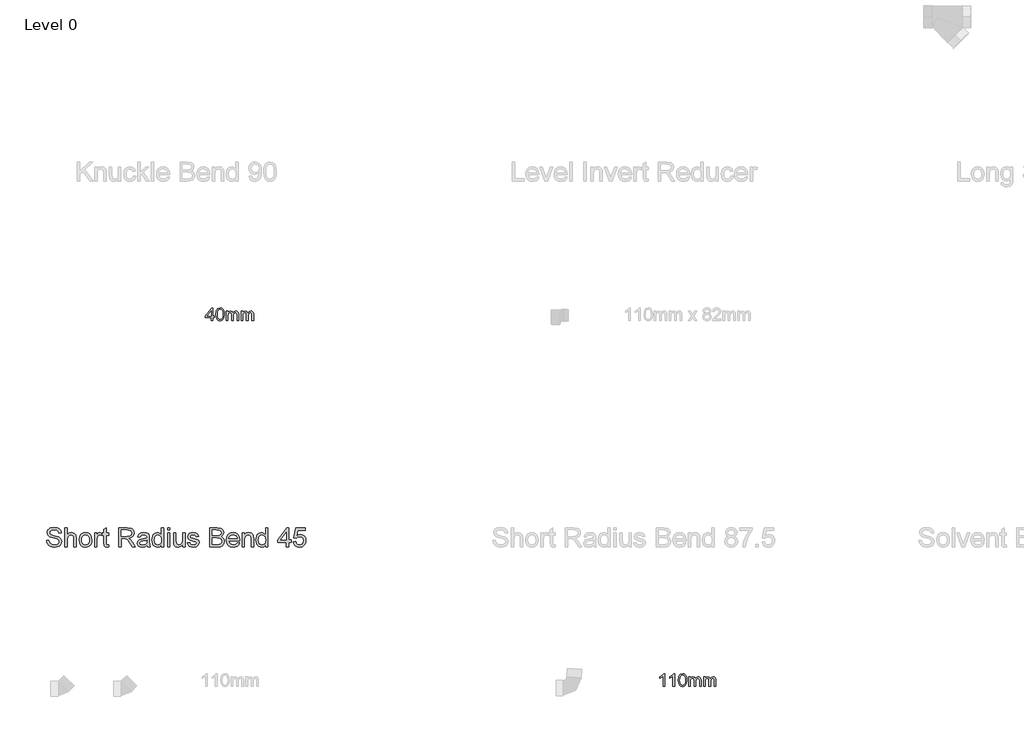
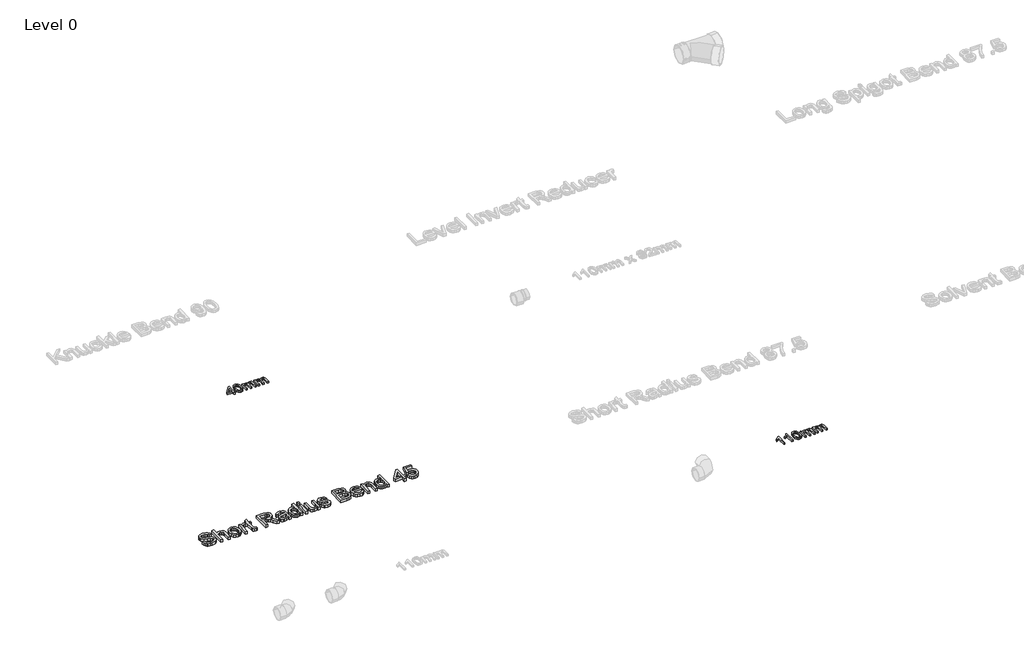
# One storey, part 2 of 28: 3 proxies.
"""IFC4 building model written with IfcOpenShell, lengths in millimetres."""

from ifc_helpers import new_model, si_unit, origin, origin_with_axes, place, context, project, spatial, polyline, outline, extrude, element, save

model = new_model("IFC4")

# Units and contexts
model_context = context("Model", 3, world=origin())
ifc_project = project(units=[si_unit("LENGTHUNIT", "METRE", prefix="MILLI")], contexts=[model_context])

# Site, building, storey
site = spatial("IfcSite", under=ifc_project)
building = spatial("IfcBuilding", under=site)
storey = spatial("IfcBuildingStorey", under=building, Name="Level 0", Elevation=0.0)

# Proxies
placement = place(None, origin())
element("IfcBuildingElementProxy", 1, Name="100mm Arial", ObjectType="100mm Arial", at=placement, inside=storey, context=model_context, shape_type="SweptSolid", body=[
    extrude(outline(polyline([(-20760.1908572, -162.2832696), (-20760.1908572, -139.2063465), (-20804.8062418, -139.2063465), (-20804.8062418, -126.8986542), (-20757.1139341, -65.3601927), (-20747.8831649, -65.3601927), (-20747.8831649, -126.8986542), (-20735.5754726, -126.8986542), (-20735.5754726, -139.2063465), (-20747.8831649, -139.2063465), (-20747.8831649, -162.2832696), (-20760.1908572, -162.2832696)]), holes=[polyline([(-20760.1908572, -126.8986542), (-20760.1908572, -88.8698081), (-20789.6620111, -126.8986542), (-20760.1908572, -126.8986542)])]), origin_with_axes(), (0.0, 0.0, 1.0), 15.0),
    extrude(outline(polyline([(-20724.8062418, -113.8457696), (-20721.1884534, -85.5164427), (-20710.4432611, -69.1823081), (-20692.4985495, -63.8217312), (-20678.1235495, -66.9948081), (-20668.1956649, -76.1414427), (-20662.4264341, -90.7087504), (-20660.1908572, -113.8457696), (-20663.772588, -142.0549042), (-20674.4817226, -158.4250965), (-20692.4985495, -163.8217312), (-20705.2870111, -161.4779812), (-20714.9985495, -154.4467312), (-20722.3543188, -137.7940869), (-20724.8062418, -113.8457696)]), holes=[polyline([(-20712.4985495, -113.8217312), (-20711.0562418, -133.1817071), (-20706.7293188, -144.386635), (-20700.2870111, -149.7321879), (-20692.4985495, -151.5140389), (-20684.710088, -149.7261783), (-20678.2677803, -144.3625965), (-20673.9408572, -133.151659), (-20672.4985495, -113.8217312), (-20673.8927803, -94.8974523), (-20678.0754726, -83.605385), (-20684.5057611, -77.9984139), (-20692.6427803, -76.1294235), (-20700.3471072, -77.7760581), (-20706.5370111, -82.7159619), (-20711.0081649, -94.7111542), (-20712.4985495, -113.8217312)])]), origin_with_axes(), (0.0, 0.0, 1.0), 15.0),
    extrude(outline(polyline([(-20646.3447034, -162.2832696), (-20646.3447034, -89.9755773), (-20634.0370111, -89.9755773), (-20634.0370111, -101.8746158), (-20625.5754726, -92.1270196), (-20613.5322034, -88.4371158), (-20601.2004726, -92.199135), (-20594.4216264, -102.7400004), (-20584.8182611, -92.0128369), (-20572.6908572, -88.4371158), (-20563.4390543, -89.9244956), (-20556.5971072, -94.386635), (-20552.3693428, -101.9437264), (-20550.960088, -112.7159619), (-20550.960088, -162.2832696), (-20563.2677803, -162.2832696), (-20563.2677803, -118.0044235), (-20564.4096072, -107.7279812), (-20568.5442226, -102.667885), (-20575.5754726, -100.7448081), (-20587.678838, -105.6726927), (-20592.4985495, -121.4659619), (-20592.4985495, -162.2832696), (-20604.8062418, -162.2832696), (-20604.8062418, -116.6342312), (-20607.6547995, -104.7111542), (-20616.9937418, -100.7448081), (-20626.1043188, -103.3890389), (-20632.1620111, -111.1294235), (-20634.0370111, -125.8169235), (-20634.0370111, -162.2832696), (-20646.3447034, -162.2832696)])), origin_with_axes(), (0.0, 0.0, 1.0), 15.0),
    extrude(outline(polyline([(-20532.4985495, -162.2832696), (-20532.4985495, -89.9755773), (-20520.1908572, -89.9755773), (-20520.1908572, -101.8746158), (-20511.7293188, -92.1270196), (-20499.6860495, -88.4371158), (-20487.3543188, -92.199135), (-20480.5754726, -102.7400004), (-20470.9721072, -92.0128369), (-20458.8447034, -88.4371158), (-20449.5929005, -89.9244956), (-20442.7509534, -94.386635), (-20438.5231889, -101.9437264), (-20437.1139341, -112.7159619), (-20437.1139341, -162.2832696), (-20449.4216264, -162.2832696), (-20449.4216264, -118.0044235), (-20450.5634534, -107.7279812), (-20454.6980688, -102.667885), (-20461.7293188, -100.7448081), (-20473.8326841, -105.6726927), (-20478.6523957, -121.4659619), (-20478.6523957, -162.2832696), (-20490.960088, -162.2832696), (-20490.960088, -116.6342312), (-20493.8086457, -104.7111542), (-20503.147588, -100.7448081), (-20512.2581649, -103.3890389), (-20518.3158572, -111.1294235), (-20520.1908572, -125.8169235), (-20520.1908572, -162.2832696), (-20532.4985495, -162.2832696)])), origin_with_axes(), (0.0, 0.0, 1.0), 15.0),
])
element("IfcBuildingElementProxy", 2, Name="100mm Arial", ObjectType="100mm Arial", at=placement, inside=storey, context=model_context, shape_type="SweptSolid", body=[
    extrude(outline(polyline([(-17291.7293188, -2962.2832696), (-17304.0370111, -2962.2832696), (-17304.0370111, -2885.5525004), (-17315.6956649, -2893.8577889), (-17328.6523957, -2900.0717312), (-17328.6523957, -2888.4371158), (-17310.6115303, -2876.9226927), (-17299.6620111, -2863.8217312), (-17291.7293188, -2863.8217312), (-17291.7293188, -2962.2832696)])), origin_with_axes(), (0.0, 0.0, 1.0), 15.0),
    extrude(outline(polyline([(-17216.3447034, -2962.2832696), (-17228.6523957, -2962.2832696), (-17228.6523957, -2885.5525004), (-17240.3110495, -2893.8577889), (-17253.2677803, -2900.0717312), (-17253.2677803, -2888.4371158), (-17235.2269149, -2876.9226927), (-17224.2773957, -2863.8217312), (-17216.3447034, -2863.8217312), (-17216.3447034, -2962.2832696)])), origin_with_axes(), (0.0, 0.0, 1.0), 15.0),
    extrude(outline(polyline([(-17187.1139341, -2913.8457696), (-17183.4961457, -2885.5164427), (-17172.7509534, -2869.1823081), (-17154.8062418, -2863.8217312), (-17140.4312418, -2866.9948081), (-17130.5033572, -2876.1414427), (-17124.7341264, -2890.7087504), (-17122.4985495, -2913.8457696), (-17126.0802803, -2942.0549042), (-17136.7894149, -2958.4250965), (-17154.8062418, -2963.8217312), (-17167.5947034, -2961.4779812), (-17177.3062418, -2954.4467312), (-17184.6620111, -2937.7940869), (-17187.1139341, -2913.8457696)]), holes=[polyline([(-17174.8062418, -2913.8217312), (-17173.3639341, -2933.1817071), (-17169.0370111, -2944.386635), (-17162.5947034, -2949.7321879), (-17154.8062418, -2951.5140389), (-17147.0177803, -2949.7261783), (-17140.5754726, -2944.3625965), (-17136.2485495, -2933.151659), (-17134.8062418, -2913.8217312), (-17136.2004726, -2894.8974523), (-17140.3831649, -2883.605385), (-17146.8134534, -2877.9984139), (-17154.9504726, -2876.1294235), (-17162.6547995, -2877.7760581), (-17168.8447034, -2882.7159619), (-17173.3158572, -2894.7111542), (-17174.8062418, -2913.8217312)])]), origin_with_axes(), (0.0, 0.0, 1.0), 15.0),
    extrude(outline(polyline([(-17108.6523957, -2962.2832696), (-17108.6523957, -2889.9755773), (-17096.3447034, -2889.9755773), (-17096.3447034, -2901.8746158), (-17087.8831649, -2892.1270196), (-17075.8398957, -2888.4371158), (-17063.5081649, -2892.199135), (-17056.7293188, -2902.7400004), (-17047.1259534, -2892.0128369), (-17034.9985495, -2888.4371158), (-17025.7467466, -2889.9244956), (-17018.9047995, -2894.386635), (-17014.6770351, -2901.9437264), (-17013.2677803, -2912.7159619), (-17013.2677803, -2962.2832696), (-17025.5754726, -2962.2832696), (-17025.5754726, -2918.0044235), (-17026.7172995, -2907.7279812), (-17030.8519149, -2902.667885), (-17037.8831649, -2900.7448081), (-17049.9865303, -2905.6726927), (-17054.8062418, -2921.4659619), (-17054.8062418, -2962.2832696), (-17067.1139341, -2962.2832696), (-17067.1139341, -2916.6342312), (-17069.9624918, -2904.7111542), (-17079.3014341, -2900.7448081), (-17088.4120111, -2903.3890389), (-17094.4697034, -2911.1294235), (-17096.3447034, -2925.8169235), (-17096.3447034, -2962.2832696), (-17108.6523957, -2962.2832696)])), origin_with_axes(), (0.0, 0.0, 1.0), 15.0),
    extrude(outline(polyline([(-16994.8062418, -2962.2832696), (-16994.8062418, -2889.9755773), (-16982.4985495, -2889.9755773), (-16982.4985495, -2901.8746158), (-16974.0370111, -2892.1270196), (-16961.9937418, -2888.4371158), (-16949.6620111, -2892.199135), (-16942.8831649, -2902.7400004), (-16933.2797995, -2892.0128369), (-16921.1523957, -2888.4371158), (-16911.9005928, -2889.9244956), (-16905.0586457, -2894.386635), (-16900.8308813, -2901.9437264), (-16899.4216264, -2912.7159619), (-16899.4216264, -2962.2832696), (-16911.7293188, -2962.2832696), (-16911.7293188, -2918.0044235), (-16912.8711457, -2907.7279812), (-16917.0057611, -2902.667885), (-16924.0370111, -2900.7448081), (-16936.1403764, -2905.6726927), (-16940.960088, -2921.4659619), (-16940.960088, -2962.2832696), (-16953.2677803, -2962.2832696), (-16953.2677803, -2916.6342312), (-16956.116338, -2904.7111542), (-16965.4552803, -2900.7448081), (-16974.5658572, -2903.3890389), (-16980.6235495, -2911.1294235), (-16982.4985495, -2925.8169235), (-16982.4985495, -2962.2832696), (-16994.8062418, -2962.2832696)])), origin_with_axes(), (0.0, 0.0, 1.0), 15.0),
])
element("IfcBuildingElementProxy", 3, Name="150mm Arial", ObjectType="150mm Arial", at=placement, inside=storey, context=model_context, shape_type="SweptSolid", body=[
    extrude(outline(polyline([(-22020.2202973, -1844.0162473), (-22001.7587589, -1844.0162473), (-21995.8092397, -1862.4958146), (-21981.2779897, -1874.1785069), (-21959.1385666, -1878.6316319), (-21939.8477012, -1875.2602377), (-21927.3897685, -1865.9934108), (-21923.2972204, -1853.6075935), (-21926.3621243, -1842.0871608), (-21938.9102012, -1833.7037473), (-21965.7912108, -1826.6544685), (-21994.7275089, -1817.5499012), (-22010.4306339, -1803.8119204), (-22015.6049127, -1785.458555), (-22014.0048526, -1774.6457545), (-22009.2046723, -1764.5631223), (-22001.3305738, -1756.0174492), (-21990.5087589, -1749.8155262), (-21963.1409704, -1744.7854781), (-21933.9342397, -1750.0499012), (-21922.7383262, -1756.5493002), (-21914.4630858, -1765.5186512), (-21909.225706, -1776.3990598), (-21907.1433743, -1788.6316319), (-21925.6049127, -1788.6316319), (-21928.9943358, -1777.6160069), (-21936.0616435, -1769.6652858), (-21947.1043118, -1764.8515839), (-21962.4198166, -1763.2470165), (-21978.0958983, -1764.833555), (-21988.850105, -1769.5931704), (-21995.070057, -1776.5973771), (-21997.1433743, -1784.9176896), (-21995.6740233, -1792.0120406), (-21991.2659704, -1797.7181704), (-21961.1217397, -1808.0306704), (-21928.4534704, -1817.2974973), (-21917.9291315, -1823.9952137), (-21910.5868839, -1832.2614396), (-21904.835682, -1853.1388435), (-21906.4898286, -1864.5195526), (-21911.4522685, -1875.22418), (-21919.5201772, -1884.4369204), (-21930.49073, -1891.3419685), (-21958.4174127, -1897.0931704), (-21976.5048526, -1895.5426896), (-21991.3921723, -1890.8912473), (-22003.2506459, -1883.1208146), (-22012.2515473, -1872.2133627), (-22018.0297925, -1858.9261031), (-22020.2202973, -1844.0162473)])), origin_with_axes(), (0.0, 0.0, 1.0), 25.0),
    extrude(outline(polyline([(-21879.4510666, -1894.7854781), (-21879.4510666, -1747.0931704), (-21860.9895281, -1747.0931704), (-21860.9895281, -1801.396055), (-21846.5934945, -1788.3611992), (-21828.8621243, -1784.0162473), (-21808.1289512, -1788.7578339), (-21795.5448166, -1801.864805), (-21791.7587589, -1826.1316319), (-21791.7587589, -1894.7854781), (-21810.2202973, -1894.7854781), (-21810.2202973, -1828.0426896), (-21811.6896483, -1816.4861992), (-21816.0977012, -1808.5715358), (-21823.2010666, -1804.0012233), (-21832.756355, -1802.4777858), (-21847.882557, -1806.5883627), (-21857.9787108, -1817.7301896), (-21860.9895281, -1837.1652858), (-21860.9895281, -1894.7854781), (-21879.4510666, -1894.7854781)])), origin_with_axes(), (0.0, 0.0, 1.0), 25.0),
    extrude(outline(polyline([(-21770.9895281, -1840.5547089), (-21766.9961387, -1814.4038675), (-21755.0159704, -1796.0234589), (-21740.2142877, -1787.0180502), (-21722.491932, -1784.0162473), (-21703.0974007, -1787.6715959), (-21687.6061147, -1798.6376415), (-21677.4513671, -1816.0489997), (-21674.0664512, -1839.0402858), (-21675.5628454, -1857.6911271), (-21680.0520281, -1871.8888435), (-21687.4032901, -1882.5213555), (-21697.4859223, -1890.4765839), (-21709.4615834, -1895.4390238), (-21722.491932, -1897.0931704), (-21742.1208382, -1893.4513435), (-21757.5940954, -1882.5258627), (-21767.6406699, -1864.7494204), (-21770.9895281, -1840.5547089)]), holes=[polyline([(-21752.5279897, -1840.5186512), (-21750.3915714, -1857.2268843), (-21743.9823166, -1869.13043), (-21734.3368839, -1876.2563314), (-21722.491932, -1878.6316319), (-21710.7010666, -1876.2428098), (-21701.0736627, -1869.0763435), (-21694.6644079, -1857.0150454), (-21692.5279897, -1839.9417281), (-21694.6779296, -1823.7202738), (-21701.1277493, -1811.9789877), (-21710.7686747, -1804.8530863), (-21722.491932, -1802.4777858), (-21734.3368839, -1804.8440718), (-21743.9823166, -1811.94293), (-21750.3915714, -1823.8194324), (-21752.5279897, -1840.5186512)])]), origin_with_axes(), (0.0, 0.0, 1.0), 25.0),
    extrude(outline(polyline([(-21653.2972204, -1894.7854781), (-21653.2972204, -1786.3239396), (-21637.1433743, -1786.3239396), (-21637.1433743, -1802.3696127), (-21625.6770281, -1787.5859589), (-21614.1385666, -1784.0162473), (-21595.6049127, -1789.7133627), (-21601.7707781, -1806.2638435), (-21614.7515473, -1802.4777858), (-21625.1902493, -1806.1196127), (-21631.8428935, -1816.2157665), (-21634.835682, -1837.7782665), (-21634.835682, -1894.7854781), (-21653.2972204, -1894.7854781)])), origin_with_axes(), (0.0, 0.0, 1.0), 25.0),
    extrude(outline(polyline([(-21544.835682, -1879.3888435), (-21542.5279897, -1895.3263435), (-21556.3380858, -1897.0931704), (-21571.8068358, -1894.0282665), (-21579.523182, -1885.9874012), (-21581.7587589, -1865.0378819), (-21581.7587589, -1804.7854781), (-21595.6049127, -1804.7854781), (-21595.6049127, -1786.3239396), (-21581.7587589, -1786.3239396), (-21581.7587589, -1759.9657665), (-21563.2972204, -1749.1124012), (-21563.2972204, -1786.3239396), (-21544.835682, -1786.3239396), (-21544.835682, -1804.7854781), (-21563.2972204, -1804.7854781), (-21563.2972204, -1864.4970165), (-21562.3236627, -1874.0162473), (-21559.1686147, -1877.3876415), (-21552.8765473, -1878.6316319), (-21544.835682, -1879.3888435)])), origin_with_axes(), (0.0, 0.0, 1.0), 25.0),
    extrude(outline(polyline([(-21466.3741435, -1894.7854781), (-21466.3741435, -1747.0931704), (-21402.7323166, -1747.0931704), (-21373.1830377, -1751.0775454), (-21364.0874848, -1756.5943723), (-21357.0291916, -1765.1761031), (-21352.499444, -1775.8176295), (-21350.9895281, -1787.5138435), (-21353.4910305, -1802.0631223), (-21360.9955377, -1814.1244204), (-21373.7284103, -1822.9675694), (-21391.9150089, -1827.8624012), (-21381.4222204, -1835.7590358), (-21366.4582781, -1854.7614396), (-21341.8308743, -1894.7854781), (-21363.2852012, -1894.7854781), (-21382.5039512, -1864.1724973), (-21396.3861627, -1843.9080742), (-21406.1397685, -1834.3347569), (-21414.9198166, -1830.8191319), (-21425.6289512, -1830.1700935), (-21447.912605, -1830.1700935), (-21447.912605, -1894.7854781), (-21466.3741435, -1894.7854781)]), holes=[polyline([(-21447.912605, -1811.708555), (-21406.5904897, -1811.708555), (-21385.5147685, -1809.0943723), (-21373.5436147, -1800.7289877), (-21369.4510666, -1788.1989396), (-21371.4026892, -1779.193531), (-21377.257557, -1771.9369204), (-21387.3311747, -1767.1502617), (-21401.9390473, -1765.5547089), (-21447.912605, -1765.5547089), (-21447.912605, -1811.708555)])]), origin_with_axes(), (0.0, 0.0, 1.0), 25.0),
    extrude(outline(polyline([(-21251.7587589, -1880.9393242), (-21269.6614031, -1893.4513435), (-21289.4390473, -1897.0931704), (-21304.8672324, -1894.9026656), (-21316.2479416, -1888.3311512), (-21323.2656699, -1878.3521848), (-21325.6049127, -1865.9393242), (-21322.0712589, -1851.3359589), (-21312.7864031, -1840.7349973), (-21299.8597204, -1834.677305), (-21283.8861627, -1831.9008627), (-21251.866932, -1825.5547089), (-21251.7587589, -1821.4441319), (-21253.0297925, -1813.2049492), (-21256.8428935, -1807.8143242), (-21265.3705377, -1803.8119204), (-21277.2515473, -1802.4777858), (-21295.929432, -1806.0294685), (-21304.835682, -1818.6316319), (-21323.2972204, -1816.3239396), (-21315.3104416, -1798.2950935), (-21299.2287108, -1787.7301896), (-21274.8717397, -1784.0162473), (-21252.4979416, -1787.2974973), (-21239.8597204, -1795.53668), (-21234.1986627, -1808.0667281), (-21233.2972204, -1824.2205742), (-21233.2972204, -1847.1893242), (-21232.3597204, -1879.2626415), (-21228.6818358, -1894.7854781), (-21247.1433743, -1894.7854781), (-21251.7587589, -1880.9393242)]), holes=[polyline([(-21251.7587589, -1844.0162473), (-21281.5424127, -1849.677305), (-21297.4258262, -1852.6700935), (-21304.6193358, -1857.5378819), (-21307.1433743, -1864.6412473), (-21301.6445762, -1874.6292281), (-21285.5087589, -1878.6316319), (-21266.8308743, -1874.2145646), (-21254.787605, -1863.5234589), (-21251.866932, -1849.2446127), (-21251.7587589, -1844.0162473)])]), origin_with_axes(), (0.0, 0.0, 1.0), 25.0),
    extrude(outline(polyline([(-21140.9895281, -1894.7854781), (-21140.9895281, -1877.3696127), (-21153.2040714, -1892.162281), (-21170.0880858, -1897.0931704), (-21182.023182, -1895.3083146), (-21192.9486627, -1889.9537473), (-21202.1974608, -1881.403567), (-21209.1025089, -1870.0318723), (-21213.4023887, -1856.2983988), (-21214.835682, -1840.6628819), (-21209.55323, -1811.2758627), (-21202.9546723, -1799.6202137), (-21193.7239031, -1791.0474973), (-21182.5595401, -1785.7740598), (-21170.1602012, -1784.0162473), (-21153.1409704, -1789.0462954), (-21140.9895281, -1802.1172089), (-21140.9895281, -1747.0931704), (-21122.5279897, -1747.0931704), (-21122.5279897, -1894.7854781), (-21140.9895281, -1894.7854781)]), holes=[polyline([(-21196.3741435, -1840.5907665), (-21194.2918118, -1857.2899853), (-21188.0448166, -1869.1664877), (-21178.9672925, -1876.2653459), (-21168.3933743, -1878.6316319), (-21157.8239632, -1876.3735189), (-21148.976307, -1869.59918), (-21142.9862228, -1858.1824132), (-21140.9895281, -1841.9970165), (-21143.0222805, -1824.301704), (-21149.1205377, -1812.0330742), (-21158.1935546, -1804.8666079), (-21169.1505858, -1802.4777858), (-21179.8326772, -1804.7719564), (-21188.585682, -1811.6544685), (-21194.4270281, -1823.4768843), (-21196.3741435, -1840.5907665)])]), origin_with_axes(), (0.0, 0.0, 1.0), 25.0),
    extrude(outline(polyline([(-21094.835682, -1765.5547089), (-21094.835682, -1747.0931704), (-21076.3741435, -1747.0931704), (-21076.3741435, -1765.5547089), (-21094.835682, -1765.5547089)])), origin_with_axes(), (0.0, 0.0, 1.0), 25.0),
    extrude(outline(polyline([(-21094.835682, -1894.7854781), (-21094.835682, -1786.3239396), (-21076.3741435, -1786.3239396), (-21076.3741435, -1894.7854781), (-21094.835682, -1894.7854781)])), origin_with_axes(), (0.0, 0.0, 1.0), 25.0),
    extrude(outline(polyline([(-20979.4510666, -1894.7854781), (-20979.4510666, -1876.1436512), (-20993.9102012, -1891.8557906), (-21012.7683743, -1897.0931704), (-21030.1301531, -1893.4152858), (-21042.101307, -1884.1845165), (-21047.600105, -1870.5907665), (-21048.6818358, -1853.427305), (-21048.6818358, -1786.3239396), (-21030.2202973, -1786.3239396), (-21030.2202973, -1844.7374012), (-21029.1025089, -1863.5595165), (-21021.8008262, -1874.6111992), (-21008.0448166, -1878.6316319), (-20992.6301531, -1874.521055), (-20982.443855, -1863.3251415), (-20979.4510666, -1842.7542281), (-20979.4510666, -1786.3239396), (-20960.9895281, -1786.3239396), (-20960.9895281, -1894.7854781), (-20979.4510666, -1894.7854781)])), origin_with_axes(), (0.0, 0.0, 1.0), 25.0),
    extrude(outline(polyline([(-20942.5279897, -1862.4777858), (-20924.0664512, -1860.1700935), (-20921.1547925, -1868.0667281), (-20915.5207781, -1873.8720165), (-20895.9414512, -1878.6316319), (-20877.1193358, -1874.2686512), (-20870.9895281, -1864.0282665), (-20877.1553935, -1855.7349973), (-20896.1577973, -1850.4705742), (-20923.9582781, -1841.4381223), (-20936.0916916, -1830.8912473), (-20940.2202973, -1815.9994204), (-20936.9029897, -1802.2434108), (-20927.8525089, -1791.7325935), (-20916.11573, -1786.2698531), (-20900.2323166, -1784.0162473), (-20877.7683743, -1787.6400454), (-20863.4895281, -1797.4477377), (-20857.1433743, -1814.0162473), (-20875.6049127, -1816.3239396), (-20882.5460185, -1806.1376415), (-20898.7900089, -1802.4777858), (-20916.4582781, -1805.9753819), (-20921.7587589, -1814.1244204), (-20919.5592397, -1819.4970165), (-20912.6722204, -1823.5715358), (-20896.7707781, -1827.5018242), (-20869.6734223, -1836.1917281), (-20857.0892877, -1846.0354781), (-20852.5279897, -1862.0811512), (-20857.882557, -1879.7494204), (-20873.3332781, -1892.56793), (-20896.193855, -1897.0931704), (-20914.8086387, -1894.91168), (-20928.3933743, -1888.3672089), (-20937.4618839, -1877.5318723), (-20942.5279897, -1862.4777858)])), origin_with_axes(), (0.0, 0.0, 1.0), 25.0),
    extrude(outline(polyline([(-20771.7587589, -1894.7854781), (-20771.7587589, -1747.0931704), (-20715.4005858, -1747.0931704), (-20687.7984223, -1751.4381223), (-20678.522581, -1756.950442), (-20671.5003454, -1764.7974973), (-20665.6049127, -1783.6917281), (-20670.5628454, -1800.9453339), (-20685.5448166, -1814.0162473), (-20675.0835786, -1819.4789877), (-20667.3537108, -1827.7902858), (-20662.5805738, -1838.4002617), (-20660.9895281, -1850.7590358), (-20665.33448, -1870.6087954), (-20676.0977012, -1884.7434108), (-20692.1614031, -1892.2434108), (-20715.8332781, -1894.7854781), (-20771.7587589, -1894.7854781)]), holes=[polyline([(-20753.2972204, -1876.3239396), (-20715.4366435, -1876.3239396), (-20701.7347204, -1875.6027858), (-20690.1421723, -1871.5823531), (-20682.4618839, -1863.3792281), (-20679.4510666, -1850.9393242), (-20682.9847204, -1836.5883627), (-20694.4330377, -1828.0246608), (-20717.2395281, -1825.5547089), (-20753.2972204, -1825.5547089), (-20753.2972204, -1876.3239396)]), polyline([(-20753.2972204, -1807.0931704), (-20719.5832781, -1807.0931704), (-20699.8957781, -1805.5066319), (-20688.0508262, -1798.6736992), (-20684.0664512, -1786.6484589), (-20687.7803935, -1774.6051896), (-20698.4174127, -1767.4837954), (-20722.1433743, -1765.5547089), (-20753.2972204, -1765.5547089), (-20753.2972204, -1807.0931704)])]), origin_with_axes(), (0.0, 0.0, 1.0), 25.0),
    extrude(outline(polyline([(-20561.975105, -1862.4777858), (-20543.8741435, -1864.7854781), (-20550.3960786, -1878.4243002), (-20560.80323, -1888.6196127), (-20574.8612228, -1894.974781), (-20592.335682, -1897.0931704), (-20613.9973406, -1893.4378218), (-20630.6650089, -1882.4717762), (-20641.2930137, -1864.9071728), (-20644.835682, -1841.4561512), (-20641.256956, -1817.2163675), (-20630.5207781, -1799.0883627), (-20614.0784704, -1787.7842762), (-20593.381355, -1784.0162473), (-20573.3287709, -1787.7752617), (-20557.3056339, -1799.052305), (-20546.7993238, -1817.1442521), (-20543.2972204, -1841.3479781), (-20543.4053935, -1846.3239396), (-20626.3741435, -1846.3239396), (-20623.1785305, -1860.1430502), (-20615.7551531, -1870.302305), (-20605.0415113, -1876.5493002), (-20591.975105, -1878.6316319), (-20573.8741435, -1874.7734589), (-20561.975105, -1862.4777858)]), holes=[polyline([(-20626.3741435, -1827.8624012), (-20561.7587589, -1827.8624012), (-20564.2557541, -1818.1087954), (-20569.1505858, -1811.1316319), (-20579.913807, -1804.6412473), (-20593.4534704, -1802.4777858), (-20605.8978815, -1804.2040478), (-20616.1878454, -1809.3828339), (-20623.3407901, -1817.4552497), (-20626.3741435, -1827.8624012)])]), origin_with_axes(), (0.0, 0.0, 1.0), 25.0),
    extrude(outline(polyline([(-20524.835682, -1894.7854781), (-20524.835682, -1786.3239396), (-20506.3741435, -1786.3239396), (-20506.3741435, -1801.4681704), (-20492.257557, -1788.3792281), (-20472.9847204, -1784.0162473), (-20455.5508262, -1787.5318723), (-20443.6517877, -1796.7626415), (-20438.116932, -1810.3383627), (-20437.1433743, -1828.1869204), (-20437.1433743, -1894.7854781), (-20455.6049127, -1894.7854781), (-20455.6049127, -1830.6749012), (-20457.7323166, -1814.3407665), (-20465.2503454, -1805.7049492), (-20477.9246243, -1802.4777858), (-20488.7374247, -1804.2896848), (-20497.9546723, -1809.7253819), (-20504.2692757, -1820.2271848), (-20506.3741435, -1837.2374012), (-20506.3741435, -1894.7854781), (-20524.835682, -1894.7854781)])), origin_with_axes(), (0.0, 0.0, 1.0), 25.0),
    extrude(outline(polyline([(-20344.835682, -1894.7854781), (-20344.835682, -1877.3696127), (-20357.0502252, -1892.162281), (-20373.9342397, -1897.0931704), (-20385.8693358, -1895.3083146), (-20396.7948166, -1889.9537473), (-20406.0436147, -1881.403567), (-20412.9486627, -1870.0318723), (-20417.2485425, -1856.2983988), (-20418.6818358, -1840.6628819), (-20413.3993839, -1811.2758627), (-20406.8008262, -1799.6202137), (-20397.570057, -1791.0474973), (-20386.405694, -1785.7740598), (-20374.006355, -1784.0162473), (-20356.9871243, -1789.0462954), (-20344.835682, -1802.1172089), (-20344.835682, -1747.0931704), (-20326.3741435, -1747.0931704), (-20326.3741435, -1894.7854781), (-20344.835682, -1894.7854781)]), holes=[polyline([(-20400.2202973, -1840.5907665), (-20398.1379656, -1857.2899853), (-20391.8909704, -1869.1664877), (-20382.8134464, -1876.2653459), (-20372.2395281, -1878.6316319), (-20361.6701171, -1876.3735189), (-20352.8224608, -1869.59918), (-20346.8323767, -1858.1824132), (-20344.835682, -1841.9970165), (-20346.8684344, -1824.301704), (-20352.9666916, -1812.0330742), (-20362.0397084, -1804.8666079), (-20372.9967397, -1802.4777858), (-20383.678831, -1804.7719564), (-20392.4318358, -1811.6544685), (-20398.273182, -1823.4768843), (-20400.2202973, -1840.5907665)])]), origin_with_axes(), (0.0, 0.0, 1.0), 25.0),
    extrude(outline(polyline([(-20185.6049127, -1894.7854781), (-20185.6049127, -1860.1700935), (-20252.5279897, -1860.1700935), (-20252.5279897, -1841.708555), (-20180.9895281, -1749.4008627), (-20167.1433743, -1749.4008627), (-20167.1433743, -1841.708555), (-20148.6818358, -1841.708555), (-20148.6818358, -1860.1700935), (-20167.1433743, -1860.1700935), (-20167.1433743, -1894.7854781), (-20185.6049127, -1894.7854781)]), holes=[polyline([(-20185.6049127, -1841.708555), (-20185.6049127, -1784.6652858), (-20229.8116435, -1841.708555), (-20185.6049127, -1841.708555)])]), origin_with_axes(), (0.0, 0.0, 1.0), 25.0),
    extrude(outline(polyline([(-20132.5279897, -1855.5547089), (-20114.0664512, -1853.2470165), (-20110.6770281, -1864.3302497), (-20104.7635666, -1872.2674492), (-20096.3531098, -1877.0405863), (-20085.4727012, -1878.6316319), (-20072.2395281, -1876.4185911), (-20062.3236627, -1869.7794685), (-20056.1307541, -1859.4804901), (-20054.0664512, -1846.2878819), (-20056.0000449, -1833.8660069), (-20061.8008262, -1824.364805), (-20071.5138671, -1818.334156), (-20085.1842397, -1816.3239396), (-20101.3921723, -1819.5330742), (-20111.7587589, -1827.8624012), (-20130.2202973, -1825.5547089), (-20114.0664512, -1749.4008627), (-20042.5279897, -1749.4008627), (-20042.5279897, -1767.8624012), (-20099.1385666, -1767.8624012), (-20107.0352012, -1808.5354781), (-20093.8471002, -1800.5306704), (-20080.0279897, -1797.8624012), (-20062.7788911, -1801.1706944), (-20048.45948, -1811.0955742), (-20038.8185546, -1826.2217762), (-20035.6049127, -1845.1340358), (-20038.4985425, -1863.5955742), (-20047.179432, -1879.3888435), (-20063.8020281, -1892.6670887), (-20085.5448166, -1897.0931704), (-20103.6773286, -1894.2491199), (-20118.1229416, -1885.7169685), (-20128.0252853, -1872.4883026), (-20132.5279897, -1855.5547089)])), origin_with_axes(), (0.0, 0.0, 1.0), 25.0),
])

save(model, "model.ifc")
